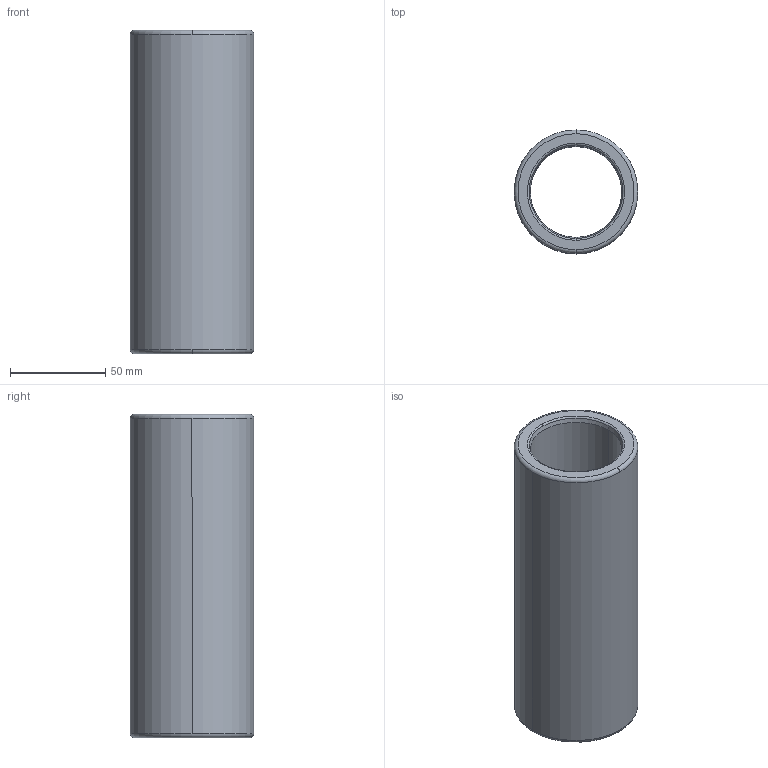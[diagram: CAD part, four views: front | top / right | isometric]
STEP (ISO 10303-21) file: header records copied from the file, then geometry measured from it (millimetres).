
FILE_DESCRIPTION((''),'2;1');
FILE_NAME('B30_040_170.stp','2009-01-12T10:51:16',(''),(''),'Mechanical Desktop 2009','Mechanical Desktop 2009',', , ');
FILE_SCHEMA(('CONFIG_CONTROL_DESIGN'));
Length unit declared in the file: millimetre
Products named in the file (2): Product; blmdl1
Assembly tree (1 placements, depth 2):
  Product
    blmdl1
Bounding box: 64.99 x 64.99 x 170 mm (x, y, z)
Volume: 255982.2 mm3; surface area: 62718.8 mm2
Topology: 1 solids, 1 shells, 18 faces, 48 edges, 32 vertices
Faces by surface type: torus 8, cylinder 4, cone 4, plane 2
Entity records: 705 total; most frequent: DIRECTION 128, CARTESIAN_POINT 100, ORIENTED_EDGE 96, AXIS2_PLACEMENT_3D 60, EDGE_CURVE 48, CIRCLE 40, VERTEX_POINT 32, EDGE_LOOP 20
